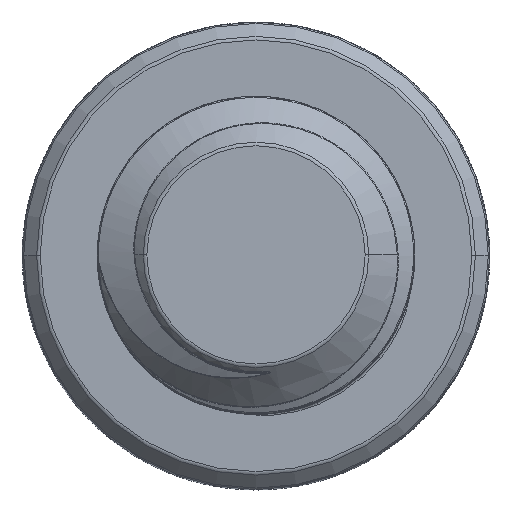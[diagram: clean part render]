
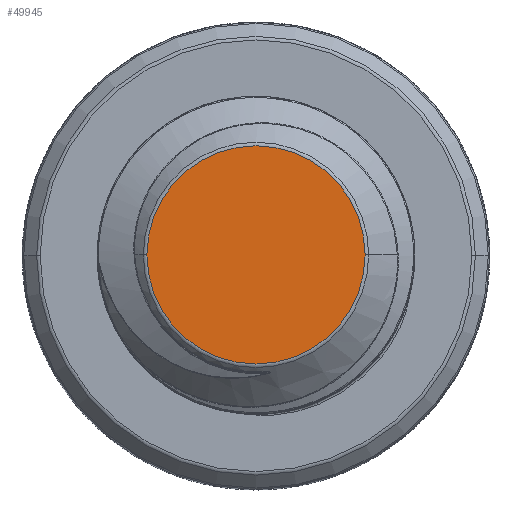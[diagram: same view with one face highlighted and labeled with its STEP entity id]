
A CAD part, top view. The second image highlights one B-rep face of the part: STEP entity #49945.
In plain terms, the highlighted planar face has unit normal (0, 0, 1).
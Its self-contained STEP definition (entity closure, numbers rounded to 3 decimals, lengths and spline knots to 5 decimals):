
#761 = CIRCLE ( 'NONE', #77698, 0.08587 ) ;
#1921 = CARTESIAN_POINT ( 'NONE',  ( 0.08587, 0., 0. ) ) ;
#3333 = EDGE_LOOP ( 'NONE', ( #45833, #15401 ) ) ;
#3582 = EDGE_CURVE ( 'NONE', #56889, #102164, #24164, .T. ) ;
#14812 = DIRECTION ( 'NONE',  ( 1., 0., 0. ) ) ;
#15401 = ORIENTED_EDGE ( 'NONE', *, *, #47743, .T. ) ;
#24164 = CIRCLE ( 'NONE', #56119, 0.08587 ) ;
#29167 = PLANE ( 'NONE',  #79964 ) ;
#45833 = ORIENTED_EDGE ( 'NONE', *, *, #3582, .T. ) ;
#47743 = EDGE_CURVE ( 'NONE', #102164, #56889, #761, .T. ) ;
#49945 = ADVANCED_FACE ( 'NONE', ( #83060 ), #29167, .T. ) ;
#53318 = CARTESIAN_POINT ( 'NONE',  ( 0., 0., 0. ) ) ;
#56119 = AXIS2_PLACEMENT_3D ( 'NONE', #97163, #71744, #61977 ) ;
#56889 = VERTEX_POINT ( 'NONE', #1921 ) ;
#56936 = DIRECTION ( 'NONE',  ( 0., 0., 1. ) ) ;
#61778 = DIRECTION ( 'NONE',  ( 0., 0., 1. ) ) ;
#61977 = DIRECTION ( 'NONE',  ( 1., 0., 0. ) ) ;
#71744 = DIRECTION ( 'NONE',  ( 0., 0., 1. ) ) ;
#77698 = AXIS2_PLACEMENT_3D ( 'NONE', #107441, #56936, #14812 ) ;
#79964 = AXIS2_PLACEMENT_3D ( 'NONE', #53318, #61778, #95448 ) ;
#83060 = FACE_OUTER_BOUND ( 'NONE', #3333, .T. ) ;
#84430 = CARTESIAN_POINT ( 'NONE',  ( -0.08587, 0., 0. ) ) ;
#95448 = DIRECTION ( 'NONE',  ( 1., 0., 0. ) ) ;
#97163 = CARTESIAN_POINT ( 'NONE',  ( 0., 0., 0. ) ) ;
#102164 = VERTEX_POINT ( 'NONE', #84430 ) ;
#107441 = CARTESIAN_POINT ( 'NONE',  ( 0., 0., 0. ) ) ;
